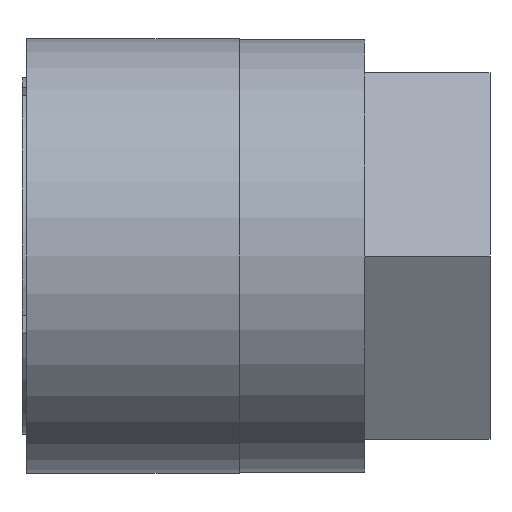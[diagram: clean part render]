
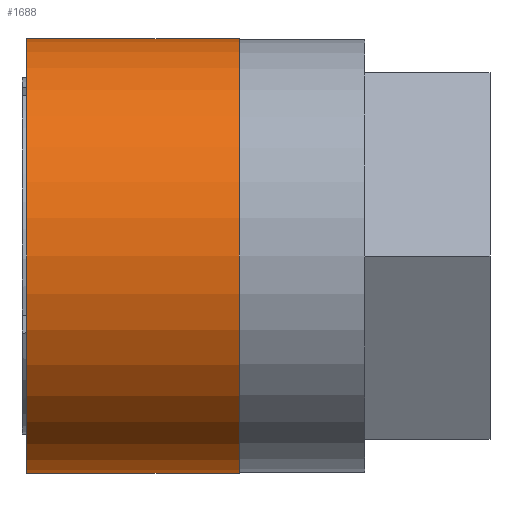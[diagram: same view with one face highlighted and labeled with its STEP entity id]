
A CAD part, front view. The second image highlights one B-rep face of the part: STEP entity #1688.
In plain terms, the highlighted cylindrical face has radius 22.5 mm (diameter 45 mm), a partial arc.
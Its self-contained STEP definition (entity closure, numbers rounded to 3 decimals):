
#13 = AXIS2_PLACEMENT_3D ( 'NONE', #880, #879, #887 ) ;
#86 = ORIENTED_EDGE ( 'NONE', *, *, #587, .F. ) ;
#87 = ORIENTED_EDGE ( 'NONE', *, *, #568, .T. ) ;
#88 = ORIENTED_EDGE ( 'NONE', *, *, #481, .T. ) ;
#89 = ORIENTED_EDGE ( 'NONE', *, *, #479, .F. ) ;
#335 = CIRCLE ( 'NONE', #520, 22.5 ) ;
#336 = LINE ( 'NONE', #851, #337 ) ;
#337 = VECTOR ( 'NONE', #847, 1000. ) ;
#414 = EDGE_LOOP ( 'NONE', ( #86, #87, #88, #89 ) ) ;
#421 = VERTEX_POINT ( 'NONE', #1660 ) ;
#443 = AXIS2_PLACEMENT_3D ( 'NONE', #1136, #1133, #1132 ) ;
#479 = EDGE_CURVE ( 'NONE', #421, #1358, #335, .T. ) ;
#481 = EDGE_CURVE ( 'NONE', #632, #1358, #336, .T. ) ;
#520 = AXIS2_PLACEMENT_3D ( 'NONE', #970, #963, #871 ) ;
#568 = EDGE_CURVE ( 'NONE', #1646, #632, #1455, .T. ) ;
#587 = EDGE_CURVE ( 'NONE', #1646, #421, #1474, .T. ) ;
#632 = VERTEX_POINT ( 'NONE', #1009 ) ;
#847 = DIRECTION ( 'NONE',  ( -1., 0., 0. ) ) ;
#851 = CARTESIAN_POINT ( 'NONE',  ( 0., 0., 22.5 ) ) ;
#871 = DIRECTION ( 'NONE',  ( 0., 0., 1. ) ) ;
#879 = DIRECTION ( 'NONE',  ( -1., 0., 0. ) ) ;
#880 = CARTESIAN_POINT ( 'NONE',  ( 0., 0., 0. ) ) ;
#887 = DIRECTION ( 'NONE',  ( 0., 0., 1. ) ) ;
#918 = CARTESIAN_POINT ( 'NONE',  ( 22.5, 0., -22.5 ) ) ;
#928 = CARTESIAN_POINT ( 'NONE',  ( 0.5, 0., 22.5 ) ) ;
#963 = DIRECTION ( 'NONE',  ( -1., 0., 0. ) ) ;
#970 = CARTESIAN_POINT ( 'NONE',  ( 0.5, 0., 0. ) ) ;
#1009 = CARTESIAN_POINT ( 'NONE',  ( 22.5, 0., 22.5 ) ) ;
#1081 = DIRECTION ( 'NONE',  ( -1., 0., 0. ) ) ;
#1082 = CARTESIAN_POINT ( 'NONE',  ( 0., 0., -22.5 ) ) ;
#1132 = DIRECTION ( 'NONE',  ( 0., 0., 1. ) ) ;
#1133 = DIRECTION ( 'NONE',  ( -1., 0., 0. ) ) ;
#1136 = CARTESIAN_POINT ( 'NONE',  ( 22.5, 0., 0. ) ) ;
#1358 = VERTEX_POINT ( 'NONE', #928 ) ;
#1455 = CIRCLE ( 'NONE', #443, 22.5 ) ;
#1474 = LINE ( 'NONE', #1082, #1478 ) ;
#1478 = VECTOR ( 'NONE', #1081, 1000. ) ;
#1530 = FACE_OUTER_BOUND ( 'NONE', #414, .T. ) ;
#1533 = CYLINDRICAL_SURFACE ( 'NONE', #13, 22.5 ) ;
#1646 = VERTEX_POINT ( 'NONE', #918 ) ;
#1660 = CARTESIAN_POINT ( 'NONE',  ( 0.5, 0., -22.5 ) ) ;
#1688 = ADVANCED_FACE ( 'NONE', ( #1530 ), #1533, .T. ) ;
